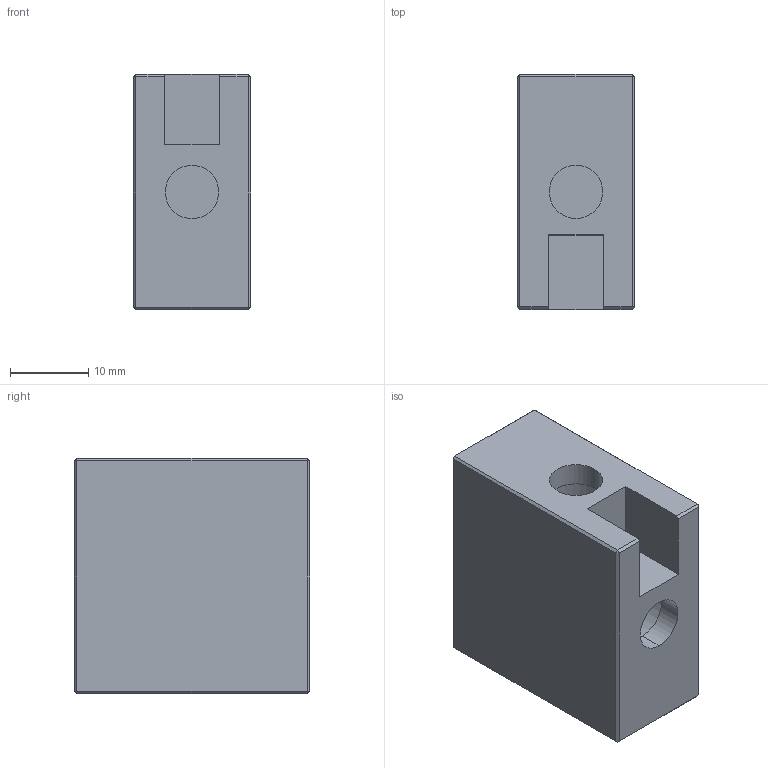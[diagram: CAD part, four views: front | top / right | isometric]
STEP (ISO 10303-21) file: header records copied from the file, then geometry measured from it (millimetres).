
FILE_DESCRIPTION (( 'STEP AP203' ), '1' );
FILE_NAME ('WDF1530.STEP', '2024-02-19T01:09:33', ( '' ), ( '' ), 'SwSTEP 2.0', 'SolidWorks 2022', '' );
FILE_SCHEMA (( 'CONFIG_CONTROL_DESIGN' ));
Length unit declared in the file: millimetre
Products named in the file (1): WDF1530
Bounding box: 15 x 30 x 30 mm (x, y, z)
Volume: 8849.7 mm3; surface area: 5380.1 mm2
Topology: 1 solids, 1 shells, 63 faces, 135 edges, 78 vertices
Faces by surface type: plane 39, cylinder 16, cone 8
Entity records: 1740 total; most frequent: CARTESIAN_POINT 307, DIRECTION 289, ORIENTED_EDGE 270, EDGE_CURVE 135, AXIS2_PLACEMENT_3D 100, LINE 89, VECTOR 89, VERTEX_POINT 78
